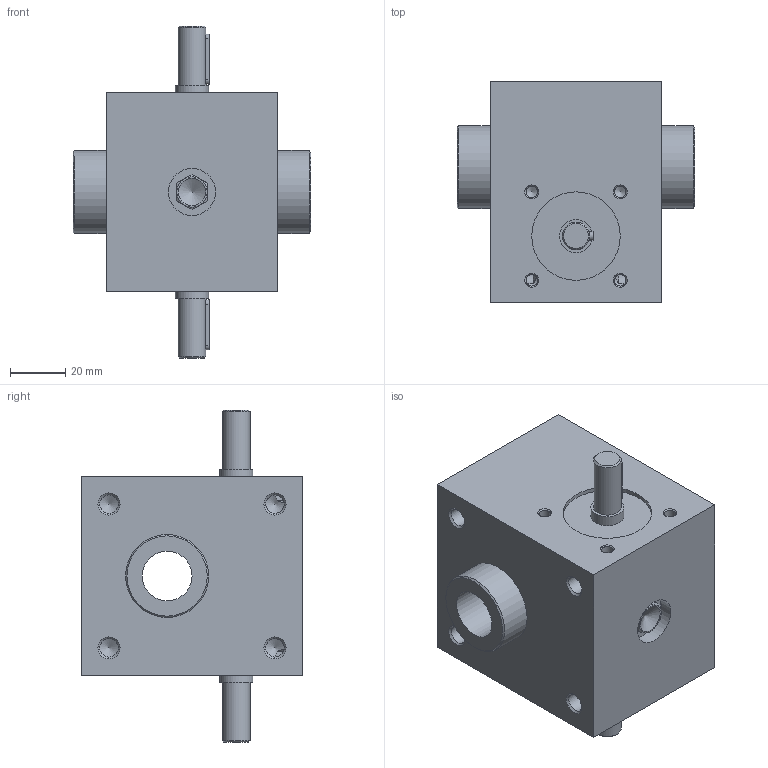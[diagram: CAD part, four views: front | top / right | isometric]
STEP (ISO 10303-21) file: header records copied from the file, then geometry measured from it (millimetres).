
FILE_DESCRIPTION( ( 'Unknown' ), '1' );
FILE_NAME( '//Dn02/FOLDER Tomasz Micha³ek/pliki z pulpitu/Katalogi przek³adni/Podnoœniki œrubowe/Pivexin Technology/Podnosniki - potrzebne/Modele podnosnikow/N/SG5/M1-N-41/SG5-N-H.stp', 'Unknown', ( 'Unknown' ), ( 'Unknown' ), 'XStep 1.0', 'Unknown', ' ' );
FILE_SCHEMA( ( 'automotive_design' ) );
Length unit declared in the file: millimetre
Products named in the file (3): Assem1; SG5-N-H_obudowa; SG5-N-H_slimak
Bounding box: 86 x 80 x 120 mm (x, y, z)
Volume: 695582.8 mm3; surface area: 95803.7 mm2
Topology: 4 solids, 4 shells, 206 faces, 514 edges, 324 vertices
Faces by surface type: cone 86, cylinder 64, plane 56
Full cylindrical faces by diameter (mm): 4.134 x16, 6.647 x16, 10 x4, 12 x4, 17 x2, 18 x2, 30 x4, 32 x4
Entity records: 3440 total; most frequent: CARTESIAN_POINT 751, DIRECTION 414, ORIENTED_EDGE 310, AXIS2_PLACEMENT_3D 187, EDGE_LOOP 178, EDGE_CURVE 155, VERTEX_POINT 136, FACE_OUTER_BOUND 127
